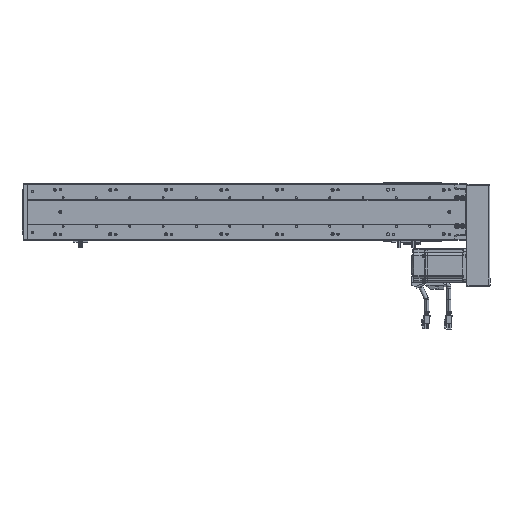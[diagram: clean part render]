
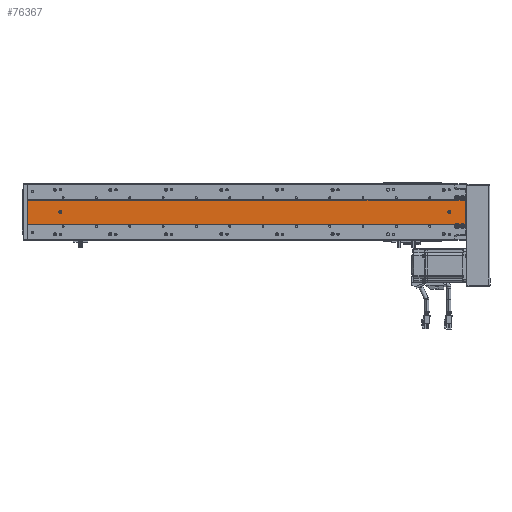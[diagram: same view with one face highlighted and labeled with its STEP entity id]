
A CAD part, front view. The second image highlights one B-rep face of the part: STEP entity #76367.
In plain terms, the highlighted planar face has unit normal (0, -1, 0).
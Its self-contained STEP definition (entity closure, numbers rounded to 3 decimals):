
#1146 = VERTEX_POINT ( 'NONE', #55874 ) ;
#1161 = VERTEX_POINT ( 'NONE', #55838 ) ;
#1191 = VERTEX_POINT ( 'NONE', #55994 ) ;
#1193 = VERTEX_POINT ( 'NONE', #55991 ) ;
#1507 = VERTEX_POINT ( 'NONE', #56365 ) ;
#1513 = VERTEX_POINT ( 'NONE', #56413 ) ;
#1567 = VERTEX_POINT ( 'NONE', #56519 ) ;
#1623 = VERTEX_POINT ( 'NONE', #56551 ) ;
#1901 = VERTEX_POINT ( 'NONE', #56766 ) ;
#1929 = VERTEX_POINT ( 'NONE', #54739 ) ;
#1933 = VERTEX_POINT ( 'NONE', #54771 ) ;
#1939 = VERTEX_POINT ( 'NONE', #54960 ) ;
#1957 = VERTEX_POINT ( 'NONE', #38568 ) ;
#1973 = VERTEX_POINT ( 'NONE', #38524 ) ;
#2001 = VERTEX_POINT ( 'NONE', #38561 ) ;
#18618 = CARTESIAN_POINT ( 'NONE',  ( 118.817, 89.548, 786.302 ) ) ;
#22234 = AXIS2_PLACEMENT_3D ( 'NONE', #27126, #27164, #27193 ) ;
#22408 = AXIS2_PLACEMENT_3D ( 'NONE', #90329, #90323, #90327 ) ;
#22515 = AXIS2_PLACEMENT_3D ( 'NONE', #88299, #88301, #88302 ) ;
#22597 = AXIS2_PLACEMENT_3D ( 'NONE', #88213, #88199, #88186 ) ;
#27126 = CARTESIAN_POINT ( 'NONE',  ( 165.403, 89.548, 783. ) ) ;
#27164 = DIRECTION ( 'NONE',  ( 0., 1., 0. ) ) ;
#27193 = DIRECTION ( 'NONE',  ( -1., 0., 0. ) ) ;
#29658 = AXIS2_PLACEMENT_3D ( 'NONE', #89261, #89262, #89266 ) ;
#38524 = CARTESIAN_POINT ( 'NONE',  ( 118.817, 89.548, 789. ) ) ;
#38561 = CARTESIAN_POINT ( 'NONE',  ( 118.817, 89.548, 769.698 ) ) ;
#38568 = CARTESIAN_POINT ( 'NONE',  ( 118.817, 89.548, 779.698 ) ) ;
#48420 = CARTESIAN_POINT ( 'NONE',  ( 118.817, 89.548, 789. ) ) ;
#48452 = DIRECTION ( 'NONE',  ( 0., 0., -1. ) ) ;
#48479 = CARTESIAN_POINT ( 'NONE',  ( 118.817, 89.548, 789. ) ) ;
#48540 = CARTESIAN_POINT ( 'NONE',  ( 161.989, 89.548, 789. ) ) ;
#48543 = DIRECTION ( 'NONE',  ( 0., 0., -1. ) ) ;
#48562 = DIRECTION ( 'NONE',  ( 0., 0., -1. ) ) ;
#48756 = CARTESIAN_POINT ( 'NONE',  ( 161.989, 89.548, 789. ) ) ;
#48825 = DIRECTION ( 'NONE',  ( 0., 0., -1. ) ) ;
#51942 = EDGE_LOOP ( 'NONE', ( #94623, #94602 ) ) ;
#51958 = EDGE_LOOP ( 'NONE', ( #94680, #94698 ) ) ;
#51974 = EDGE_LOOP ( 'NONE', ( #94644, #94671, #94695, #94699, #94649, #94687, #94670, #94694, #94679, #94690, #94700, #94652 ) ) ;
#54087 = VECTOR ( 'NONE', #48543, 1000. ) ;
#54133 = LINE ( 'NONE', #48479, #54163 ) ;
#54153 = LINE ( 'NONE', #48420, #54087 ) ;
#54163 = VECTOR ( 'NONE', #48452, 1000. ) ;
#54167 = VECTOR ( 'NONE', #48562, 1000. ) ;
#54189 = LINE ( 'NONE', #48540, #54167 ) ;
#54211 = VECTOR ( 'NONE', #48825, 1000. ) ;
#54253 = LINE ( 'NONE', #48756, #54211 ) ;
#54739 = CARTESIAN_POINT ( 'NONE',  ( 161.989, 89.548, 0. ) ) ;
#54771 = CARTESIAN_POINT ( 'NONE',  ( 118.817, 89.548, 776.302 ) ) ;
#54960 = CARTESIAN_POINT ( 'NONE',  ( 161.989, 89.548, 789. ) ) ;
#55728 = VECTOR ( 'NONE', #58408, 1000. ) ;
#55776 = LINE ( 'NONE', #58406, #55728 ) ;
#55838 = CARTESIAN_POINT ( 'NONE',  ( 161.989, 89.548, 786.302 ) ) ;
#55874 = CARTESIAN_POINT ( 'NONE',  ( 161.989, 89.548, 779.698 ) ) ;
#55991 = CARTESIAN_POINT ( 'NONE',  ( 161.989, 89.548, 776.302 ) ) ;
#55994 = CARTESIAN_POINT ( 'NONE',  ( 161.989, 89.548, 769.698 ) ) ;
#56365 = CARTESIAN_POINT ( 'NONE',  ( 137.903, 89.548, 59. ) ) ;
#56413 = CARTESIAN_POINT ( 'NONE',  ( 137.903, 89.548, 759. ) ) ;
#56519 = CARTESIAN_POINT ( 'NONE',  ( 142.903, 89.548, 759. ) ) ;
#56551 = CARTESIAN_POINT ( 'NONE',  ( 142.903, 89.548, 59. ) ) ;
#56766 = CARTESIAN_POINT ( 'NONE',  ( 118.817, 89.548, 0. ) ) ;
#58043 = CARTESIAN_POINT ( 'NONE',  ( 161.989, 89.548, 0. ) ) ;
#58088 = DIRECTION ( 'NONE',  ( 1., 0., 0. ) ) ;
#58154 = CARTESIAN_POINT ( 'NONE',  ( 115.403, 89.548, 783. ) ) ;
#58165 = DIRECTION ( 'NONE',  ( 0., 1., 0. ) ) ;
#58173 = DIRECTION ( 'NONE',  ( -1., 0., 0. ) ) ;
#58192 = CARTESIAN_POINT ( 'NONE',  ( 115.403, 89.548, 773. ) ) ;
#58207 = CARTESIAN_POINT ( 'NONE',  ( 140.403, 89.548, 59. ) ) ;
#58216 = DIRECTION ( 'NONE',  ( 0., -1., 0. ) ) ;
#58234 = DIRECTION ( 'NONE',  ( 1., 0., 0. ) ) ;
#58246 = CARTESIAN_POINT ( 'NONE',  ( 140.403, 89.548, 759. ) ) ;
#58263 = CARTESIAN_POINT ( 'NONE',  ( 118.817, 89.548, 789. ) ) ;
#58288 = DIRECTION ( 'NONE',  ( 0., -1., 0. ) ) ;
#58293 = DIRECTION ( 'NONE',  ( 1., 0., 0. ) ) ;
#58308 = DIRECTION ( 'NONE',  ( -1., 0., 0. ) ) ;
#58321 = DIRECTION ( 'NONE',  ( 0., 0., -1. ) ) ;
#58327 = DIRECTION ( 'NONE',  ( 0., 1., 0. ) ) ;
#58406 = CARTESIAN_POINT ( 'NONE',  ( 161.989, 89.548, 789. ) ) ;
#58408 = DIRECTION ( 'NONE',  ( 0., 0., -1. ) ) ;
#62972 = VERTEX_POINT ( 'NONE', #18618 ) ;
#67963 = LINE ( 'NONE', #58263, #68133 ) ;
#68133 = VECTOR ( 'NONE', #58321, 1000. ) ;
#68575 = VECTOR ( 'NONE', #58088, 1000. ) ;
#68584 = CIRCLE ( 'NONE', #76334, 2.5 ) ;
#68603 = CIRCLE ( 'NONE', #76234, 4.75 ) ;
#68613 = CIRCLE ( 'NONE', #76236, 2.5 ) ;
#68632 = LINE ( 'NONE', #58043, #68575 ) ;
#68649 = CIRCLE ( 'NONE', #76333, 4.75 ) ;
#76234 = AXIS2_PLACEMENT_3D ( 'NONE', #58192, #58165, #58173 ) ;
#76236 = AXIS2_PLACEMENT_3D ( 'NONE', #58207, #58216, #58234 ) ;
#76333 = AXIS2_PLACEMENT_3D ( 'NONE', #58154, #58327, #58308 ) ;
#76334 = AXIS2_PLACEMENT_3D ( 'NONE', #58246, #58288, #58293 ) ;
#76367 = ADVANCED_FACE ( 'NONE', ( #104627, #104572, #104568 ), #89260, .F. ) ;
#78363 = EDGE_CURVE ( 'NONE', #1957, #1933, #54153, .T. ) ;
#78380 = EDGE_CURVE ( 'NONE', #2001, #1901, #54133, .T. ) ;
#78391 = EDGE_CURVE ( 'NONE', #1191, #1929, #54189, .T. ) ;
#78429 = EDGE_CURVE ( 'NONE', #1146, #1193, #54253, .T. ) ;
#80695 = EDGE_CURVE ( 'NONE', #1146, #1161, #89752, .T. ) ;
#81195 = EDGE_CURVE ( 'NONE', #1191, #1193, #90003, .T. ) ;
#81603 = EDGE_CURVE ( 'NONE', #1507, #1623, #89615, .T. ) ;
#81689 = EDGE_CURVE ( 'NONE', #1513, #1567, #89573, .T. ) ;
#82621 = EDGE_CURVE ( 'NONE', #1973, #1939, #86088, .T. ) ;
#83888 = EDGE_CURVE ( 'NONE', #1901, #1929, #68632, .T. ) ;
#83919 = EDGE_CURVE ( 'NONE', #1933, #2001, #68603, .T. ) ;
#83926 = EDGE_CURVE ( 'NONE', #1623, #1507, #68613, .T. ) ;
#83935 = EDGE_CURVE ( 'NONE', #62972, #1957, #68649, .T. ) ;
#83963 = EDGE_CURVE ( 'NONE', #1973, #62972, #67963, .T. ) ;
#83973 = EDGE_CURVE ( 'NONE', #1567, #1513, #68584, .T. ) ;
#84042 = EDGE_CURVE ( 'NONE', #1939, #1161, #55776, .T. ) ;
#86088 = LINE ( 'NONE', #92837, #86090 ) ;
#86090 = VECTOR ( 'NONE', #92905, 1000. ) ;
#88186 = DIRECTION ( 'NONE',  ( 1., 0., 0. ) ) ;
#88199 = DIRECTION ( 'NONE',  ( 0., -1., 0. ) ) ;
#88213 = CARTESIAN_POINT ( 'NONE',  ( 140.403, 89.548, 59. ) ) ;
#88299 = CARTESIAN_POINT ( 'NONE',  ( 140.403, 89.548, 759. ) ) ;
#88301 = DIRECTION ( 'NONE',  ( 0., -1., 0. ) ) ;
#88302 = DIRECTION ( 'NONE',  ( 1., 0., 0. ) ) ;
#89260 = PLANE ( 'NONE',  #29658 ) ;
#89261 = CARTESIAN_POINT ( 'NONE',  ( 161.989, 89.548, 789. ) ) ;
#89262 = DIRECTION ( 'NONE',  ( 0., 1., 0. ) ) ;
#89266 = DIRECTION ( 'NONE',  ( -1., 0., 0. ) ) ;
#89573 = CIRCLE ( 'NONE', #22515, 2.5 ) ;
#89615 = CIRCLE ( 'NONE', #22597, 2.5 ) ;
#89752 = CIRCLE ( 'NONE', #22234, 4.75 ) ;
#90003 = CIRCLE ( 'NONE', #22408, 4.75 ) ;
#90323 = DIRECTION ( 'NONE',  ( 0., 1., 0. ) ) ;
#90327 = DIRECTION ( 'NONE',  ( -1., 0., 0. ) ) ;
#90329 = CARTESIAN_POINT ( 'NONE',  ( 165.403, 89.548, 773. ) ) ;
#92837 = CARTESIAN_POINT ( 'NONE',  ( 161.989, 89.548, 789. ) ) ;
#92905 = DIRECTION ( 'NONE',  ( 1., 0., 0. ) ) ;
#94602 = ORIENTED_EDGE ( 'NONE', *, *, #81603, .F. ) ;
#94623 = ORIENTED_EDGE ( 'NONE', *, *, #83926, .F. ) ;
#94644 = ORIENTED_EDGE ( 'NONE', *, *, #78429, .F. ) ;
#94649 = ORIENTED_EDGE ( 'NONE', *, *, #83963, .T. ) ;
#94652 = ORIENTED_EDGE ( 'NONE', *, *, #81195, .T. ) ;
#94670 = ORIENTED_EDGE ( 'NONE', *, *, #78363, .T. ) ;
#94671 = ORIENTED_EDGE ( 'NONE', *, *, #80695, .T. ) ;
#94679 = ORIENTED_EDGE ( 'NONE', *, *, #78380, .T. ) ;
#94680 = ORIENTED_EDGE ( 'NONE', *, *, #83973, .F. ) ;
#94687 = ORIENTED_EDGE ( 'NONE', *, *, #83935, .T. ) ;
#94690 = ORIENTED_EDGE ( 'NONE', *, *, #83888, .T. ) ;
#94694 = ORIENTED_EDGE ( 'NONE', *, *, #83919, .T. ) ;
#94695 = ORIENTED_EDGE ( 'NONE', *, *, #84042, .F. ) ;
#94698 = ORIENTED_EDGE ( 'NONE', *, *, #81689, .F. ) ;
#94699 = ORIENTED_EDGE ( 'NONE', *, *, #82621, .F. ) ;
#94700 = ORIENTED_EDGE ( 'NONE', *, *, #78391, .F. ) ;
#104568 = FACE_OUTER_BOUND ( 'NONE', #51974, .T. ) ;
#104572 = FACE_BOUND ( 'NONE', #51942, .T. ) ;
#104627 = FACE_BOUND ( 'NONE', #51958, .T. ) ;
